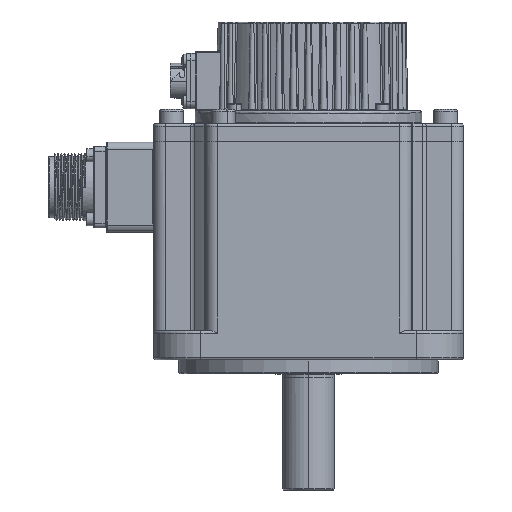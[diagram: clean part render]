
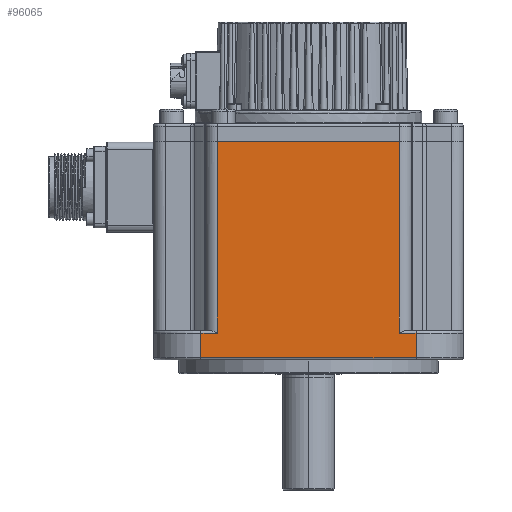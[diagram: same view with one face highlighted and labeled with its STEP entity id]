
A CAD part, left-side view. The second image highlights one B-rep face of the part: STEP entity #96065.
In plain terms, the highlighted planar face has unit normal (-1, 0, 0) as drawn and (1, 0, 0) by its records, which use the part's own axes.
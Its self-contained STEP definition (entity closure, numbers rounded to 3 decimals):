
#496 = CARTESIAN_POINT ( 'NONE',  ( 65.5, 38.5, -92.5 ) ) ;
#2641 = EDGE_CURVE ( 'NONE', #29043, #4497, #99749, .T. ) ;
#3052 = VECTOR ( 'NONE', #110118, 1000. ) ;
#4402 = ORIENTED_EDGE ( 'NONE', *, *, #24840, .T. ) ;
#4497 = VERTEX_POINT ( 'NONE', #10587 ) ;
#4521 = CARTESIAN_POINT ( 'NONE',  ( 65.5, 38.5, -11.4 ) ) ;
#5575 = FACE_OUTER_BOUND ( 'NONE', #63536, .T. ) ;
#5938 = VECTOR ( 'NONE', #20061, 1000. ) ;
#6548 = EDGE_CURVE ( 'NONE', #26102, #60054, #91166, .T. ) ;
#7788 = CARTESIAN_POINT ( 'NONE',  ( 65.5, 45.5, -1. ) ) ;
#10587 = CARTESIAN_POINT ( 'NONE',  ( 65.5, -38.5, -92.5 ) ) ;
#12928 = DIRECTION ( 'NONE',  ( 0., 1., 0. ) ) ;
#16600 = LINE ( 'NONE', #33081, #3052 ) ;
#16630 = CARTESIAN_POINT ( 'NONE',  ( 65.5, -38.5, -17. ) ) ;
#20061 = DIRECTION ( 'NONE',  ( 0., -1., 0. ) ) ;
#23696 = VECTOR ( 'NONE', #86147, 1000. ) ;
#24840 = EDGE_CURVE ( 'NONE', #65345, #60054, #74770, .T. ) ;
#25870 = CARTESIAN_POINT ( 'NONE',  ( 65.5, 45.5, -21. ) ) ;
#26102 = VERTEX_POINT ( 'NONE', #60403 ) ;
#29043 = VERTEX_POINT ( 'NONE', #74887 ) ;
#30926 = LINE ( 'NONE', #4521, #60648 ) ;
#31121 = PLANE ( 'NONE',  #108203 ) ;
#32725 = CARTESIAN_POINT ( 'NONE',  ( 65.5, -45.5, -21. ) ) ;
#33081 = CARTESIAN_POINT ( 'NONE',  ( 65.5, 0., -11.4 ) ) ;
#34030 = ORIENTED_EDGE ( 'NONE', *, *, #2641, .T. ) ;
#39725 = CARTESIAN_POINT ( 'NONE',  ( 65.5, 0., -21. ) ) ;
#39762 = EDGE_CURVE ( 'NONE', #48419, #4497, #90209, .T. ) ;
#42086 = ORIENTED_EDGE ( 'NONE', *, *, #46272, .T. ) ;
#43155 = DIRECTION ( 'NONE',  ( 0., -1., 0. ) ) ;
#45671 = CARTESIAN_POINT ( 'NONE',  ( 65.5, 0., -1. ) ) ;
#46272 = EDGE_CURVE ( 'NONE', #82111, #56217, #16600, .T. ) ;
#46664 = LINE ( 'NONE', #25870, #23696 ) ;
#48419 = VERTEX_POINT ( 'NONE', #69157 ) ;
#56217 = VERTEX_POINT ( 'NONE', #80780 ) ;
#60054 = VERTEX_POINT ( 'NONE', #84398 ) ;
#60403 = CARTESIAN_POINT ( 'NONE',  ( 65.5, -45.5, -11.4 ) ) ;
#60648 = VECTOR ( 'NONE', #64101, 1000. ) ;
#63238 = EDGE_CURVE ( 'NONE', #26102, #29043, #72810, .T. ) ;
#63536 = EDGE_LOOP ( 'NONE', ( #69011, #4402, #105754, #68765, #34030, #84563, #107034, #42086 ) ) ;
#64101 = DIRECTION ( 'NONE',  ( 0., 0., 1. ) ) ;
#65345 = VERTEX_POINT ( 'NONE', #7788 ) ;
#67441 = EDGE_CURVE ( 'NONE', #56217, #65345, #46664, .T. ) ;
#68226 = VECTOR ( 'NONE', #75347, 1000. ) ;
#68765 = ORIENTED_EDGE ( 'NONE', *, *, #63238, .T. ) ;
#69011 = ORIENTED_EDGE ( 'NONE', *, *, #67441, .T. ) ;
#69157 = CARTESIAN_POINT ( 'NONE',  ( 65.5, 38.5, -92.5 ) ) ;
#71378 = VECTOR ( 'NONE', #84827, 1000. ) ;
#72299 = CARTESIAN_POINT ( 'NONE',  ( 65.5, 38.5, -11.4 ) ) ;
#72810 = LINE ( 'NONE', #80426, #110660 ) ;
#74770 = LINE ( 'NONE', #45671, #5938 ) ;
#74887 = CARTESIAN_POINT ( 'NONE',  ( 65.5, -38.5, -11.4 ) ) ;
#75347 = DIRECTION ( 'NONE',  ( 0., 0., 1. ) ) ;
#80426 = CARTESIAN_POINT ( 'NONE',  ( 65.5, 0., -11.4 ) ) ;
#80780 = CARTESIAN_POINT ( 'NONE',  ( 65.5, 45.5, -11.4 ) ) ;
#82111 = VERTEX_POINT ( 'NONE', #72299 ) ;
#84398 = CARTESIAN_POINT ( 'NONE',  ( 65.5, -45.5, -1. ) ) ;
#84563 = ORIENTED_EDGE ( 'NONE', *, *, #39762, .F. ) ;
#84827 = DIRECTION ( 'NONE',  ( 0., 0., -1. ) ) ;
#86147 = DIRECTION ( 'NONE',  ( 0., 0., 1. ) ) ;
#90209 = LINE ( 'NONE', #496, #109230 ) ;
#91166 = LINE ( 'NONE', #32725, #68226 ) ;
#96065 = ADVANCED_FACE ( 'NONE', ( #5575 ), #31121, .T. ) ;
#98454 = EDGE_CURVE ( 'NONE', #48419, #82111, #30926, .T. ) ;
#99726 = DIRECTION ( 'NONE',  ( 1., 0., 0. ) ) ;
#99749 = LINE ( 'NONE', #16630, #71378 ) ;
#105754 = ORIENTED_EDGE ( 'NONE', *, *, #6548, .F. ) ;
#107034 = ORIENTED_EDGE ( 'NONE', *, *, #98454, .T. ) ;
#108203 = AXIS2_PLACEMENT_3D ( 'NONE', #39725, #99726, #109196 ) ;
#109196 = DIRECTION ( 'NONE',  ( 0., 0., -1. ) ) ;
#109230 = VECTOR ( 'NONE', #43155, 1000. ) ;
#110118 = DIRECTION ( 'NONE',  ( 0., 1., 0. ) ) ;
#110660 = VECTOR ( 'NONE', #12928, 1000. ) ;
